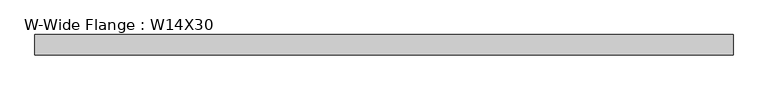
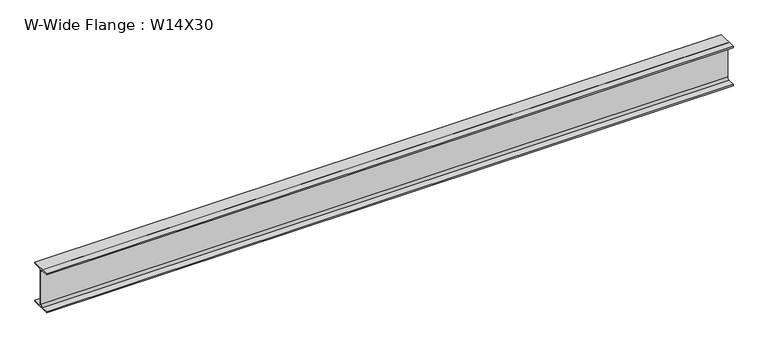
"""IFC4 building model written with IfcOpenShell, lengths in millimetres: beam geometry, W-Wide Flange : W14X30."""

from ifc_helpers import new_model, si_unit, point, frame, frame_2d, origin, place, context, project, spatial, polyline, circle_curve, trimmed, segment, composite_curve, outline, extrude, source, transform, mapped, element, save


def w_wide_flange_w14x30_ff084ddf(model_context):
    return source(origin(), model_context, "Body", "SweptSolid", [
        extrude(outline(composite_curve([segment(polyline([(85.471, -165.481), (85.471, -175.26), (-85.471, -175.26), (-85.471, -165.481), (-22.225, -165.481)]), True, "CONTINUOUS"), segment(trimmed(circle_curve(frame_2d((-22.225, -146.685)), 18.796), [point((-22.225, -165.481))], [point((-3.429, -146.685))], True, "CARTESIAN"), True, "CONTINUOUS"), segment(polyline([(-3.429, -146.685), (-3.429, 146.685)]), True, "CONTINUOUS"), segment(trimmed(circle_curve(frame_2d((-22.225, 146.685)), 18.796), [point((-3.429, 146.685))], [point((-22.225, 165.481))], True, "CARTESIAN"), True, "CONTINUOUS"), segment(polyline([(-22.225, 165.481), (-85.471, 165.481), (-85.471, 175.26), (85.471, 175.26), (85.471, 165.481), (22.225, 165.481)]), True, "CONTINUOUS"), segment(trimmed(circle_curve(frame_2d((22.225, 146.685)), 18.796), [point((22.225, 165.481))], [point((3.429, 146.685))], True, "CARTESIAN"), True, "CONTINUOUS"), segment(polyline([(3.429, 146.685), (3.429, -146.685)]), True, "CONTINUOUS"), segment(trimmed(circle_curve(frame_2d((22.225, -146.685)), 18.796), [point((3.429, -146.685))], [point((22.225, -165.481))], True, "CARTESIAN"), True, "CONTINUOUS"), segment(polyline([(22.225, -165.481), (85.471, -165.481)]), True, "CONTINUOUS")], self_intersect=False)), frame((-2911.729, 0.0, 0.0), z_axis=(1.0, 0.0, 0.0), x_axis=(0.0, 1.0, 0.0)), (0.0, 0.0, 1.0), 5823.458),
    ])


if __name__ == "__main__":
    model = new_model("IFC4")
    model_context = context("Model", 3, world=origin())
    ifc_project = project(units=[si_unit("LENGTHUNIT", "METRE", prefix="MILLI")], contexts=[model_context])
    site = spatial("IfcSite", under=ifc_project)
    building = spatial("IfcBuilding", under=site)
    placement = place(None, origin())
    w_wide_flange_w14x30_shape = w_wide_flange_w14x30_ff084ddf(model_context)
    element("IfcBeam", 1, ObjectType="W-Wide Flange : W14X30", at=placement, inside=building, context=model_context, shape_type="MappedRepresentation", body=[
        mapped(w_wide_flange_w14x30_shape, transform((0.0, 0.0, 0.0), x_axis=(1.0, 0.0, 0.0), y_axis=(0.0, 1.0, 0.0), z_axis=(0.0, 0.0, 1.0))),
    ])
    save(model, "model.ifc")
